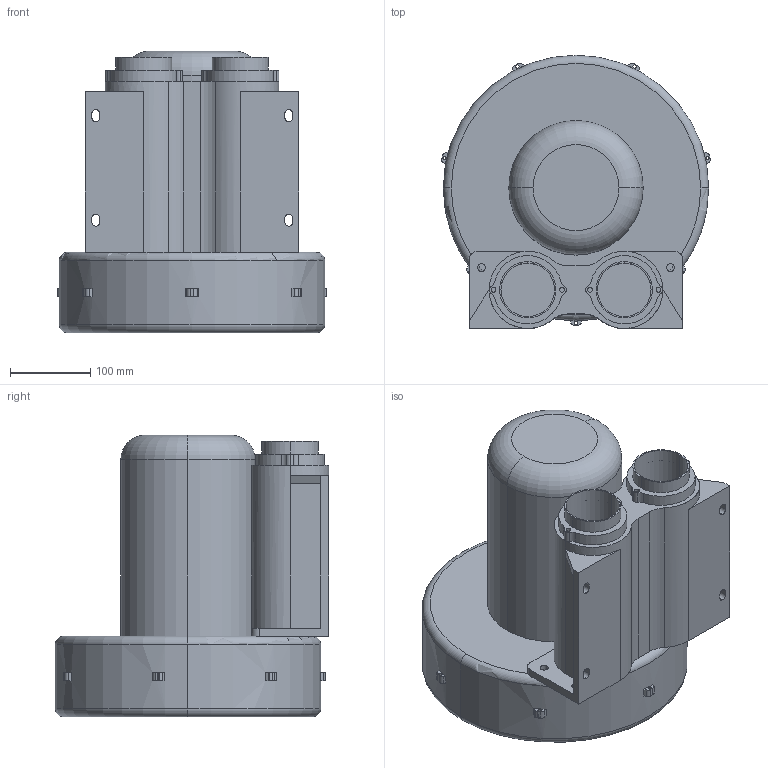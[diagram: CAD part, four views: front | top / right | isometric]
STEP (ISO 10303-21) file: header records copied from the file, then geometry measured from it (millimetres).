
FILE_DESCRIPTION (( 'STEP AP203' ), '1' );
FILE_NAME ('1500.STEP', '2019-05-09T03:42:28', ( 'User' ), ( 'www.dadighost.com' ), 'SwSTEP 2.0', 'SolidWorks 2014', '' );
FILE_SCHEMA (( 'CONFIG_CONTROL_DESIGN' ));
Length unit declared in the file: millimetre
Products named in the file (1): 1500
Bounding box: 333.97 x 340 x 350 mm (x, y, z)
Volume: 16476917.9 mm3; surface area: 669373.2 mm2
Topology: 1 solids, 1 shells, 183 faces, 480 edges, 313 vertices
Faces by surface type: cylinder 97, plane 80, torus 6
Entity records: 5862 total; most frequent: DIRECTION 1087, CARTESIAN_POINT 977, ORIENTED_EDGE 960, EDGE_CURVE 480, AXIS2_PLACEMENT_3D 423, VERTEX_POINT 313, LINE 241, VECTOR 241
